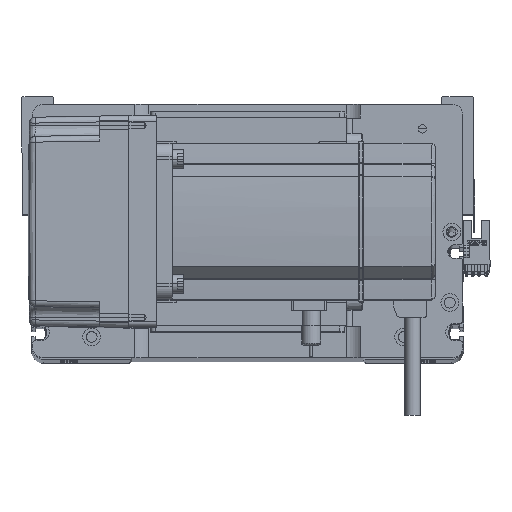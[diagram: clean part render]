
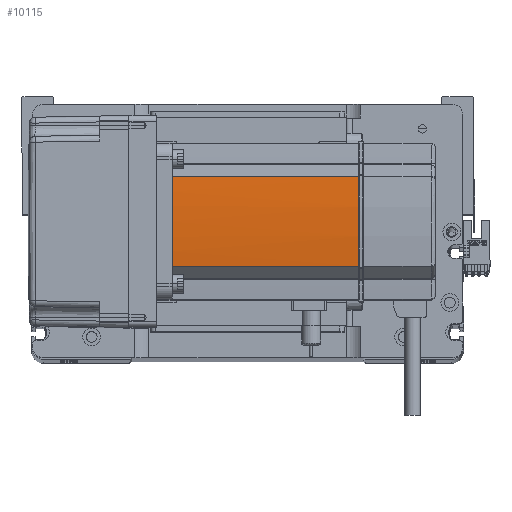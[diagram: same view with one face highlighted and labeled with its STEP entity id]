
A CAD part, top view. The second image highlights one B-rep face of the part: STEP entity #10115.
In plain terms, the highlighted cylindrical face has radius 270 mm (diameter 540 mm), a partial arc.
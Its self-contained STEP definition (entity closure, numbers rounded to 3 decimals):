
#470 = EDGE_CURVE ( 'NONE', #21022, #35444, #37174, .T. ) ;
#866 = VERTEX_POINT ( 'NONE', #9620 ) ;
#1211 = CIRCLE ( 'NONE', #7376, 270. ) ;
#1796 = AXIS2_PLACEMENT_3D ( 'NONE', #48457, #12038, #4212 ) ;
#4212 = DIRECTION ( 'NONE',  ( -1., 0., 0. ) ) ;
#5415 = EDGE_CURVE ( 'NONE', #12281, #12112, #22612, .T. ) ;
#6362 = DIRECTION ( 'NONE',  ( 0., 0., -1. ) ) ;
#6865 = ORIENTED_EDGE ( 'NONE', *, *, #470, .T. ) ;
#7376 = AXIS2_PLACEMENT_3D ( 'NONE', #35538, #51738, #47876 ) ;
#7412 = CARTESIAN_POINT ( 'NONE',  ( 39.042, 22.724, 58. ) ) ;
#7584 = DIRECTION ( 'NONE',  ( 0., 0., 1. ) ) ;
#9620 = CARTESIAN_POINT ( 'NONE',  ( 39.042, 22.724, 134. ) ) ;
#9985 = CARTESIAN_POINT ( 'NONE',  ( 39.042, -22.724, 39. ) ) ;
#10095 = CARTESIAN_POINT ( 'NONE',  ( -230., 0., 134. ) ) ;
#10115 = ADVANCED_FACE ( 'NONE', ( #45298 ), #40869, .T. ) ;
#10266 = DIRECTION ( 'NONE',  ( -1., 0., 0. ) ) ;
#10271 = DIRECTION ( 'NONE',  ( -1., 0., 0. ) ) ;
#10379 = LINE ( 'NONE', #7412, #34899 ) ;
#12038 = DIRECTION ( 'NONE',  ( 0., 0., -1. ) ) ;
#12112 = VERTEX_POINT ( 'NONE', #30592 ) ;
#12281 = VERTEX_POINT ( 'NONE', #31270 ) ;
#14113 = CARTESIAN_POINT ( 'NONE',  ( -230., 0., 134. ) ) ;
#19096 = AXIS2_PLACEMENT_3D ( 'NONE', #10095, #35033, #10271 ) ;
#19442 = CIRCLE ( 'NONE', #19096, 270. ) ;
#20624 = CARTESIAN_POINT ( 'NONE',  ( 40., 0.127, 134. ) ) ;
#20786 = EDGE_CURVE ( 'NONE', #866, #12112, #46539, .T. ) ;
#21022 = VERTEX_POINT ( 'NONE', #48051 ) ;
#21905 = EDGE_CURVE ( 'NONE', #12281, #21022, #19442, .T. ) ;
#22012 = EDGE_CURVE ( 'NONE', #34423, #35444, #1211, .T. ) ;
#22612 = B_SPLINE_CURVE_WITH_KNOTS ( 'NONE', 3,
 ( #40835, #44919, #36656, #20624 ),
 .UNSPECIFIED., .F., .F.,
 ( 4, 4 ),
 ( 0., 1. ),
 .UNSPECIFIED. ) ;
#23692 = ORIENTED_EDGE ( 'NONE', *, *, #21905, .T. ) ;
#25205 = VECTOR ( 'NONE', #6362, 1000. ) ;
#27040 = ORIENTED_EDGE ( 'NONE', *, *, #40570, .T. ) ;
#30592 = CARTESIAN_POINT ( 'NONE',  ( 40., 0.127, 134. ) ) ;
#30736 = CARTESIAN_POINT ( 'NONE',  ( 39.042, -22.724, 58. ) ) ;
#31270 = CARTESIAN_POINT ( 'NONE',  ( 40., -0.127, 134. ) ) ;
#33898 = AXIS2_PLACEMENT_3D ( 'NONE', #14113, #42272, #10266 ) ;
#33977 = ORIENTED_EDGE ( 'NONE', *, *, #22012, .F. ) ;
#34423 = VERTEX_POINT ( 'NONE', #49732 ) ;
#34899 = VECTOR ( 'NONE', #7584, 1000. ) ;
#35033 = DIRECTION ( 'NONE',  ( 0., 0., -1. ) ) ;
#35444 = VERTEX_POINT ( 'NONE', #9985 ) ;
#35538 = CARTESIAN_POINT ( 'NONE',  ( -230., 0., 39. ) ) ;
#36656 = CARTESIAN_POINT ( 'NONE',  ( 40., 0.042, 134. ) ) ;
#37174 = LINE ( 'NONE', #30736, #25205 ) ;
#40570 = EDGE_CURVE ( 'NONE', #34423, #866, #10379, .T. ) ;
#40835 = CARTESIAN_POINT ( 'NONE',  ( 40., -0.127, 134. ) ) ;
#40869 = CYLINDRICAL_SURFACE ( 'NONE', #1796, 270. ) ;
#41509 = ORIENTED_EDGE ( 'NONE', *, *, #5415, .F. ) ;
#42272 = DIRECTION ( 'NONE',  ( 0., 0., -1. ) ) ;
#44919 = CARTESIAN_POINT ( 'NONE',  ( 40., -0.042, 134. ) ) ;
#45298 = FACE_OUTER_BOUND ( 'NONE', #48900, .T. ) ;
#45710 = ORIENTED_EDGE ( 'NONE', *, *, #20786, .T. ) ;
#46539 = CIRCLE ( 'NONE', #33898, 270. ) ;
#47876 = DIRECTION ( 'NONE',  ( -1., 0., 0. ) ) ;
#48051 = CARTESIAN_POINT ( 'NONE',  ( 39.042, -22.724, 134. ) ) ;
#48457 = CARTESIAN_POINT ( 'NONE',  ( -230., 0., 58. ) ) ;
#48900 = EDGE_LOOP ( 'NONE', ( #6865, #33977, #27040, #45710, #41509, #23692 ) ) ;
#49732 = CARTESIAN_POINT ( 'NONE',  ( 39.042, 22.724, 39. ) ) ;
#51738 = DIRECTION ( 'NONE',  ( 0., 0., -1. ) ) ;
